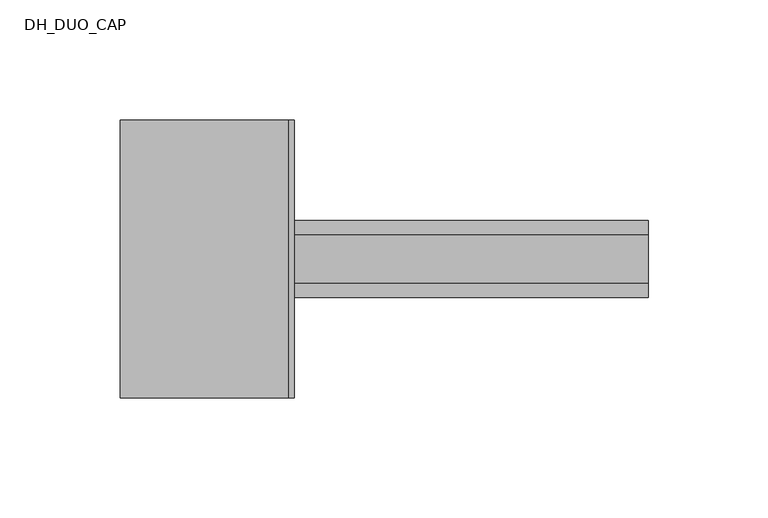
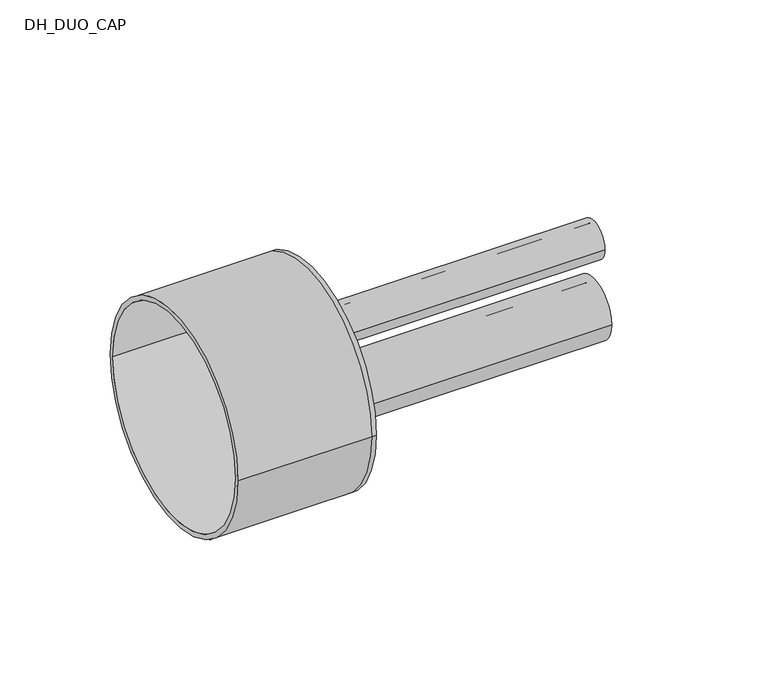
"""IFC4 building model written with IfcOpenShell, lengths in millimetres: pipe fitting geometry, DH_DUO_CAP : RAUTHERMEX DUO 7.4 DW - Solid Cap."""

from ifc_helpers import new_model, si_unit, point, frame, frame_2d, origin, place, context, project, spatial, polyline, circle_curve, trimmed, segment, composite_curve, outline, extrude, source, transform, mapped, element, save
from ifc_brep_helpers import plane_surface, cylinder_surface, revolved_surface, advanced_brep


def dh_duo_cap_216b5738(model_context):
    return source(origin(), model_context, "Body", "SolidModel", [
        extrude(outline(composite_curve([segment(trimmed(circle_curve(frame_2d((0.0, -16.0)), 16.0), [point((-16.0, -16.0))], [point((16.0, -16.0))], False, "CARTESIAN"), True, "CONTINUOUS"), segment(trimmed(circle_curve(frame_2d((0.0, -16.0)), 16.0), [point((16.0, -16.0))], [point((-16.0, -16.0))], False, "CARTESIAN"), True, "CONTINUOUS")], self_intersect=False), holes=[composite_curve([segment(trimmed(circle_curve(frame_2d((0.0, -16.0)), 11.6), [point((-11.6, -16.0))], [point((11.6, -16.0))], True, "CARTESIAN"), True, "CONTINUOUS"), segment(trimmed(circle_curve(frame_2d((0.0, -16.0)), 11.6), [point((11.6, -16.0))], [point((-11.6, -16.0))], True, "CARTESIAN"), True, "CONTINUOUS")], self_intersect=False)]), frame((0.0, 0.0, 0.0), z_axis=(1.0, 0.0, 0.0), x_axis=(0.0, 1.0, 0.0)), (0.0, 0.0, 1.0), 150.0),
        extrude(outline(composite_curve([segment(trimmed(circle_curve(frame_2d((0.0, 22.0)), 10.0), [point((-10.0, 22.0))], [point((10.0, 22.0))], False, "CARTESIAN"), True, "CONTINUOUS"), segment(trimmed(circle_curve(frame_2d((0.0, 22.0)), 10.0), [point((10.0, 22.0))], [point((-10.0, 22.0))], False, "CARTESIAN"), True, "CONTINUOUS")], self_intersect=False), holes=[composite_curve([segment(trimmed(circle_curve(frame_2d((0.0, 22.0)), 7.2), [point((-7.2, 22.0))], [point((7.2, 22.0))], True, "CARTESIAN"), True, "CONTINUOUS"), segment(trimmed(circle_curve(frame_2d((0.0, 22.0)), 7.2), [point((7.2, 22.0))], [point((-7.2, 22.0))], True, "CARTESIAN"), True, "CONTINUOUS")], self_intersect=False)]), frame((0.0, 0.0, 0.0), z_axis=(1.0, 0.0, 0.0), x_axis=(0.0, 1.0, 0.0)), (0.0, 0.0, 1.0), 150.0),
        advanced_brep(
        [(-70.0, -58.0, 0.0), (-70.0, 58.0, 0.0), (-70.0, -55.5, 0.0), (-70.0, 55.5, 0.0), (0.0, -55.5, 0.0), (0.0, 55.5, 0.0), (0.0, -58.0, 0.0), (0.0, 58.0, 0.0), (0.0, 10.0, 22.0), (0.0, -10.0, 22.0), (0.0, 16.0, -16.0), (0.0, -16.0, -16.0), (2.5, -58.0, 0.0), (2.5, 58.0, 0.0), (2.5, -10.0, 22.0), (2.5, 10.0, 22.0), (2.5, -16.0, -16.0), (2.5, 16.0, -16.0)],
        [
            (0, 1, circle_curve(frame((-70.0, 0.0, 0.0), z_axis=(-1.0, 0.0, 0.0), x_axis=(0.0, 1.0, 0.0)), 58.0)),
            (1, 0, circle_curve(frame((-70.0, 0.0, 0.0), z_axis=(-1.0, 0.0, 0.0), x_axis=(0.0, 1.0, 0.0)), 58.0)),
            (2, 3, circle_curve(frame((-70.0, 0.0, 0.0), z_axis=(1.0, 0.0, 0.0), x_axis=(0.0, 1.0, 0.0)), 55.5)),
            (3, 2, circle_curve(frame((-70.0, 0.0, 0.0), z_axis=(1.0, 0.0, 0.0), x_axis=(0.0, 1.0, 0.0)), 55.5)),
            (2, 4),
            (4, 5, circle_curve(frame((0.0, 0.0, 0.0), z_axis=(1.0, 0.0, 0.0), x_axis=(0.0, 1.0, 0.0)), 55.5)),
            (5, 3),
            (5, 4, circle_curve(frame((0.0, 0.0, 0.0), z_axis=(1.0, 0.0, 0.0), x_axis=(0.0, 1.0, 0.0)), 55.5)),
            (0, 6),
            (6, 7, circle_curve(frame((0.0, 0.0, 0.0), z_axis=(-1.0, 0.0, 0.0), x_axis=(0.0, 1.0, 0.0)), 58.0)),
            (7, 1),
            (7, 6, circle_curve(frame((0.0, 0.0, 0.0), z_axis=(-1.0, 0.0, 0.0), x_axis=(0.0, 1.0, 0.0)), 58.0)),
            (8, 9, circle_curve(frame((0.0, 0.0, 22.0), z_axis=(1.0, 0.0, 0.0), x_axis=(0.0, 1.0, 0.0)), 10.0)),
            (9, 8, circle_curve(frame((0.0, 0.0, 22.0), z_axis=(1.0, 0.0, 0.0), x_axis=(0.0, 1.0, 0.0)), 10.0)),
            (10, 11, circle_curve(frame((0.0, 0.0, -16.0), z_axis=(1.0, 0.0, 0.0), x_axis=(0.0, 1.0, 0.0)), 16.0)),
            (11, 10, circle_curve(frame((0.0, 0.0, -16.0), z_axis=(1.0, 0.0, 0.0), x_axis=(0.0, 1.0, 0.0)), 16.0)),
            (12, 13, circle_curve(frame((2.5, 0.0, 0.0), z_axis=(1.0, 0.0, 0.0), x_axis=(0.0, 1.0, 0.0)), 58.0)),
            (13, 12, circle_curve(frame((2.5, 0.0, 0.0), z_axis=(1.0, 0.0, 0.0), x_axis=(0.0, 1.0, 0.0)), 58.0)),
            (14, 15, circle_curve(frame((2.5, 0.0, 22.0), z_axis=(-1.0, 0.0, 0.0), x_axis=(0.0, 1.0, 0.0)), 10.0)),
            (15, 14, circle_curve(frame((2.5, 0.0, 22.0), z_axis=(-1.0, 0.0, 0.0), x_axis=(0.0, 1.0, 0.0)), 10.0)),
            (16, 17, circle_curve(frame((2.5, 0.0, -16.0), z_axis=(-1.0, 0.0, 0.0), x_axis=(0.0, 1.0, 0.0)), 16.0)),
            (17, 16, circle_curve(frame((2.5, 0.0, -16.0), z_axis=(-1.0, 0.0, 0.0), x_axis=(0.0, 1.0, 0.0)), 16.0)),
            (13, 7),
            (6, 12),
            (8, 15),
            (14, 9),
            (10, 17),
            (16, 11),
        ],
        [
            plane_surface(frame((-70.0, 0.0, 0.0), z_axis=(-1.0, 0.0, 0.0), x_axis=(0.0, 0.0, 1.0))),
            revolved_surface(polyline([(0.0, 55.5, 0.0), (-70.0, 55.5, 0.0)]), (-70.0, 0.0, 0.0), (1.0, 0.0, 0.0)),
            cylinder_surface(frame((-70.0, 0.0, 0.0), z_axis=(-1.0, 0.0, 0.0), x_axis=(0.0, 1.0, 0.0)), 58.0),
            plane_surface(frame((0.0, 0.0, 0.0), z_axis=(-1.0, 0.0, 0.0), x_axis=(0.0, 0.0, 1.0))),
            plane_surface(frame((2.5, 0.0, 0.0), z_axis=(1.0, 0.0, 0.0), x_axis=(0.0, 0.0, 1.0))),
            cylinder_surface(frame((0.0, 0.0, 0.0), z_axis=(-1.0, 0.0, 0.0), x_axis=(0.0, 1.0, 0.0)), 58.0),
            revolved_surface(polyline([(0.0, 10.0, 22.0), (2.5, 10.0, 22.0)]), (0.0, 0.0, 22.0), (-1.0, 0.0, 0.0)),
            revolved_surface(polyline([(0.0, 16.0, -16.0), (2.5, 16.0, -16.0)]), (0.0, 0.0, -16.0), (-1.0, 0.0, 0.0)),
        ],
        [
            (0, [[1, 2], [3, 4]]),
            (1, [[-3, 5, 6, 7]]),
            (1, [[-4, -7, 8, -5]]),
            (2, [[-1, 9, 10, 11]]),
            (2, [[-2, -11, 12, -9]]),
            (3, [[-6, -8], [13, 14], [15, 16]]),
            (4, [[17, 18], [19, 20], [21, 22]]),
            (5, [[-18, 23, -10, 24]]),
            (5, [[-17, -24, -12, -23]]),
            (6, [[25, -19, 26, -13]]),
            (6, [[-25, -14, -26, -20]]),
            (7, [[27, -21, 28, -15]]),
            (7, [[-27, -16, -28, -22]]),
        ],
    ),
    ])


if __name__ == "__main__":
    model = new_model("IFC4")
    model_context = context("Model", 3, world=origin())
    ifc_project = project(units=[si_unit("LENGTHUNIT", "METRE", prefix="MILLI")], contexts=[model_context])
    site = spatial("IfcSite", under=ifc_project)
    building = spatial("IfcBuilding", under=site)
    placement = place(None, origin())
    dh_duo_cap_shape = dh_duo_cap_216b5738(model_context)
    element("IfcPipeFitting", 1, ObjectType="DH_DUO_CAP : RAUTHERMEX DUO 7.4 DW - Solid Cap", at=placement, inside=building, context=model_context, shape_type="MappedRepresentation", body=[
        mapped(dh_duo_cap_shape, transform((0.0, 0.0, 0.0), x_axis=(1.0, 0.0, 0.0), y_axis=(0.0, 1.0, 0.0), z_axis=(0.0, 0.0, 1.0))),
    ])
    save(model, "model.ifc")
